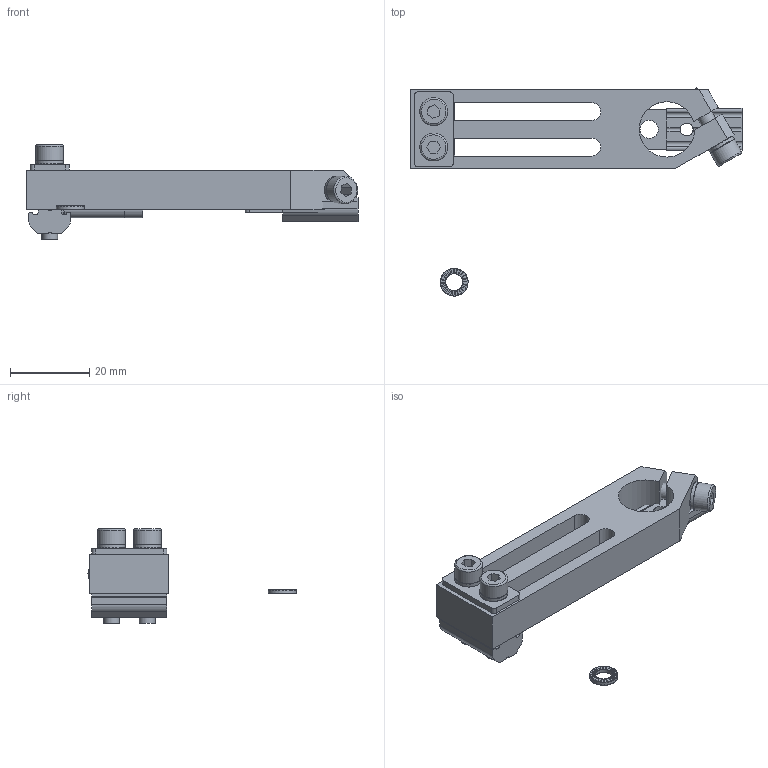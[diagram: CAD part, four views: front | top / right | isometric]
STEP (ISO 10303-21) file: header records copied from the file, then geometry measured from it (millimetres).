
FILE_DESCRIPTION( ( 'STEP AP214' ), '1' );
FILE_NAME( 'C:/Users/Segreteria/Desktop/CA.WSL.1440.VU.X.stp', '2014-07-10T13:02:53', ( ' ' ), ( ' ' ), 'XStep 1.0', ' ', ' ' );
FILE_SCHEMA( ( 'CONFIG_CONTROL_DESIGN) ( )' ) );
Length unit declared in the file: metre
Products named in the file (9): Assem1; Assem2; WSL.1440.VU; R.4.SCH; V-tcei M  4 x 16; R.04.09; CA.GWP.4.9; V-tcei M  4 x 20
Bounding box: 84 x 52.63 x 24 mm (x, y, z)
Volume: 33258.9 mm3; surface area: 25350.6 mm2
Topology: 14 solids, 19 shells, 1228 faces, 3564 edges, 2365 vertices
Faces by surface type: plane 1122, cylinder 85, torus 14, cone 7
Full cylindrical faces by diameter (mm): 3.242 x7, 4 x7, 4.3 x5, 4.5 x3, 4.6 x4, 7 x12
Entity records: 11488 total; most frequent: CARTESIAN_POINT 1774, DIRECTION 1710, ORIENTED_EDGE 1654, EDGE_CURVE 827, AXIS2_PLACEMENT_3D 577, VERTEX_POINT 561, LINE 556, VECTOR 556
